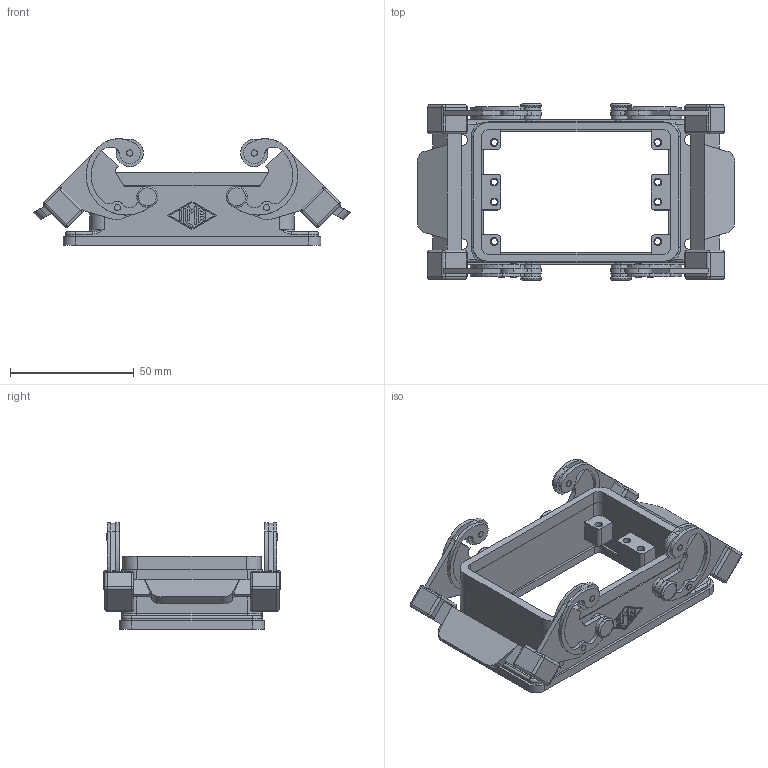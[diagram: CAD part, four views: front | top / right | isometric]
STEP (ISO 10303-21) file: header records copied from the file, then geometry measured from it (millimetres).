
FILE_DESCRIPTION (( 'STEP AP214' ), '1' );
FILE_NAME ('CHI50.STEP', '2016-08-02T15:37:39', ( 'richard gronsfeld' ), ( '' ), 'SwSTEP 2.0', 'SolidWorks 2007', '' );
FILE_SCHEMA (( 'AUTOMOTIVE_DESIGN' ));
Length unit declared in the file: millimetre
Products named in the file (1): CHI50
Bounding box: 127.92 x 71 x 42.94 mm (x, y, z)
Volume: 55119.2 mm3; surface area: 38005.4 mm2
Topology: 1 solids, 1 shells, 682 faces, 1787 edges, 1110 vertices
Faces by surface type: cylinder 356, plane 266, bspline 60
Entity records: 29681 total; most frequent: CARTESIAN_POINT 5163, DIRECTION 3757, ORIENTED_EDGE 3502, EDGE_CURVE 1751, AXIS2_PLACEMENT_3D 1435, VERTEX_POINT 1110, VECTOR 887, LINE 887
